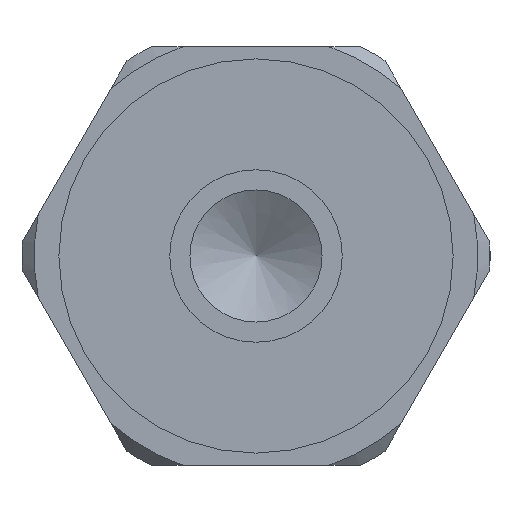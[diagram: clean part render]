
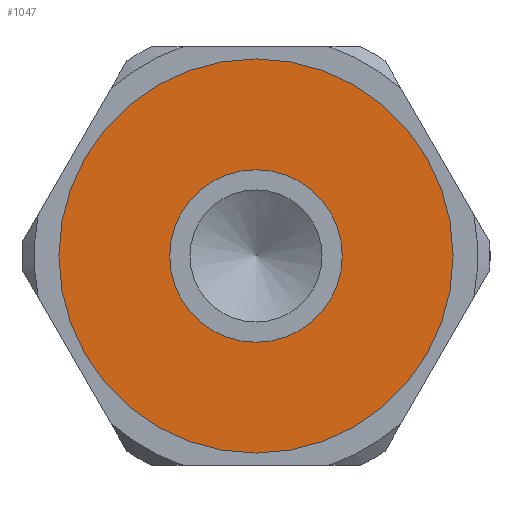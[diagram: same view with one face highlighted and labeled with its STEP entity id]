
A CAD part, left-side view. The second image highlights one B-rep face of the part: STEP entity #1047.
In plain terms, the highlighted planar face has unit normal (-1, 0, 0).
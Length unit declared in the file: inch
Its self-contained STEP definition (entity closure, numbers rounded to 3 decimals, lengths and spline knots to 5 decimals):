
#60=FACE_BOUND('',#188,.T.);
#82=PLANE('',#1168);
#128=FACE_OUTER_BOUND('',#187,.T.);
#187=EDGE_LOOP('',(#836,#837));
#188=EDGE_LOOP('',(#838,#839));
#310=CIRCLE('',#1096,0.1378);
#311=CIRCLE('',#1097,0.1378);
#346=CIRCLE('',#1166,0.31496);
#347=CIRCLE('',#1167,0.31496);
#391=VERTEX_POINT('',#1562);
#392=VERTEX_POINT('',#1563);
#451=VERTEX_POINT('',#1797);
#452=VERTEX_POINT('',#1798);
#495=EDGE_CURVE('',#391,#392,#310,.T.);
#496=EDGE_CURVE('',#392,#391,#311,.T.);
#588=EDGE_CURVE('',#451,#452,#346,.T.);
#589=EDGE_CURVE('',#452,#451,#347,.T.);
#836=ORIENTED_EDGE('',*,*,#588,.T.);
#837=ORIENTED_EDGE('',*,*,#589,.T.);
#838=ORIENTED_EDGE('',*,*,#495,.T.);
#839=ORIENTED_EDGE('',*,*,#496,.T.);
#1047=ADVANCED_FACE('',(#128,#60),#82,.T.);
#1096=AXIS2_PLACEMENT_3D('',#1564,#1244,#1245);
#1097=AXIS2_PLACEMENT_3D('',#1565,#1246,#1247);
#1166=AXIS2_PLACEMENT_3D('',#1799,#1417,#1418);
#1167=AXIS2_PLACEMENT_3D('',#1800,#1419,#1420);
#1168=AXIS2_PLACEMENT_3D('',#1802,#1422,#1423);
#1244=DIRECTION('center_axis',(1.,0.,0.));
#1245=DIRECTION('ref_axis',(0.,0.,1.));
#1246=DIRECTION('center_axis',(1.,0.,0.));
#1247=DIRECTION('ref_axis',(0.,0.,1.));
#1417=DIRECTION('center_axis',(-1.,0.,0.));
#1418=DIRECTION('ref_axis',(0.,0.,1.));
#1419=DIRECTION('center_axis',(-1.,0.,0.));
#1420=DIRECTION('ref_axis',(0.,0.,1.));
#1422=DIRECTION('center_axis',(-1.,0.,0.));
#1423=DIRECTION('ref_axis',(0.,0.,1.));
#1562=CARTESIAN_POINT('',(-2.21862,-0.42833,0.56421));
#1563=CARTESIAN_POINT('',(-2.21862,-0.42833,0.28862));
#1564=CARTESIAN_POINT('Origin',(-2.21862,-0.42833,0.42641));
#1565=CARTESIAN_POINT('Origin',(-2.21862,-0.42833,0.42641));
#1797=CARTESIAN_POINT('',(-2.21862,-0.42833,0.74137));
#1798=CARTESIAN_POINT('',(-2.21862,-0.42833,0.11145));
#1799=CARTESIAN_POINT('Origin',(-2.21862,-0.42833,0.42641));
#1800=CARTESIAN_POINT('Origin',(-2.21862,-0.42833,0.42641));
#1802=CARTESIAN_POINT('Origin',(-2.21862,-0.42833,0.42641));
